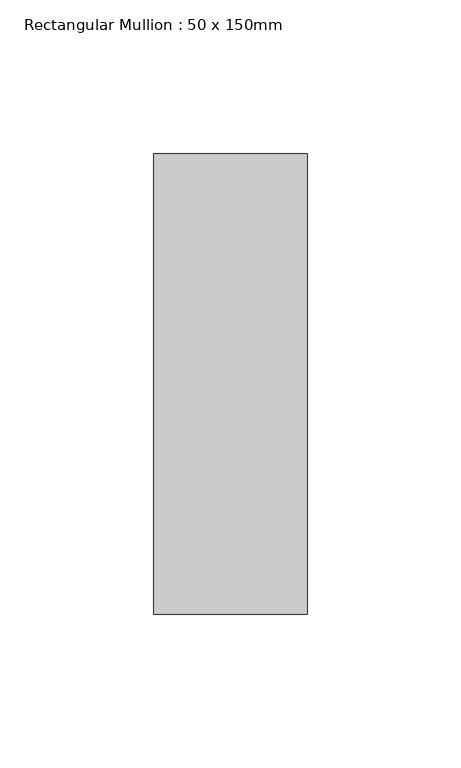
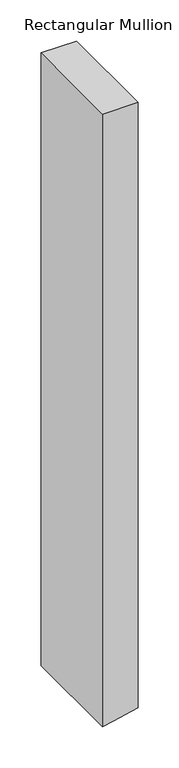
"""IFC4 building model written with IfcOpenShell, lengths in millimetres: member geometry, Rectangular Mullion : 50 x 150mm."""

import ifcopenshell
import ifcopenshell.guid

model = None  # the IFC model being written
_history = None  # IfcOwnerHistory: only IFC2X3 demands one
_inside = {}  # id of a spatial element -> (the spatial element, [elements in it])
_under = {}  # id of a project, library or spatial element -> (it, [spatial elements below it])
_declared = {}  # id of a project -> (the project, [libraries it declares])
_typed = {}  # id of a type object -> (the type object, [elements of that type])
_made_of = {}  # id of a material, layer set ... -> (it, [elements and type objects made of it])


def new_model(schema):
    """Start an empty IFC model of exactly this schema.

    Asked for "IFC4X3", IfcOpenShell would pick the latest addendum, in which some entities
    have other attributes; the version numbers below select the first issue.
    IFC2X3 requires an IfcOwnerHistory on every rooted entity: one is made here for all.
    """
    global model, _history
    if schema == "IFC4X3":
        model = ifcopenshell.file(schema_version=(4, 3, 0, 0))
    else:
        model = ifcopenshell.file(schema=schema)
    _inside.clear()
    _under.clear()
    _declared.clear()
    _typed.clear()
    _made_of.clear()
    _history = None
    if model.schema == "IFC2X3":
        org = make("IfcOrganization", Name="unknown")
        user = make(
            "IfcPersonAndOrganization",
            ThePerson=make("IfcPerson", FamilyName="unknown"),
            TheOrganization=org,
        )
        app = make(
            "IfcApplication",
            ApplicationDeveloper=org,
            Version="unknown",
            ApplicationFullName="unknown",
            ApplicationIdentifier="unknown",
        )
        _history = make(
            "IfcOwnerHistory",
            OwningUser=user,
            OwningApplication=app,
            ChangeAction="ADDED",
            CreationDate=0,
        )
    return model


def make(cls, **values):
    """One entity of the class cls with the attributes given. An attribute that is None is left unset."""
    return model.create_entity(
        cls, **{name: value for name, value in values.items() if value is not None}
    )


def rooted(cls, **values):
    """An entity with a GlobalId (a new one), such as an element, a storey or a relation."""
    return make(cls, GlobalId=ifcopenshell.guid.new(), OwnerHistory=_history, **values)


def si_unit(unit_type, name, prefix=None):
    """IfcSIUnit, for example si_unit("LENGTHUNIT", "METRE", prefix="MILLI")."""
    return make("IfcSIUnit", UnitType=unit_type, Prefix=prefix, Name=name)


def assignment(units):
    """IfcUnitAssignment: the units of a project."""
    return None if units is None else make("IfcUnitAssignment", Units=units)


def point(xyz):
    """IfcCartesianPoint."""
    return None if xyz is None else make("IfcCartesianPoint", Coordinates=xyz)


def direction(xyz):
    """IfcDirection."""
    return None if xyz is None else make("IfcDirection", DirectionRatios=xyz)


def frame(location, z_axis=None, x_axis=None):
    """IfcAxis2Placement3D, a coordinate frame: its origin and axes. An axis left out is left unset."""
    return make(
        "IfcAxis2Placement3D",
        Location=point(location),
        Axis=direction(z_axis),
        RefDirection=direction(x_axis),
    )


def origin():
    """The frame at (0, 0, 0) with its axes left unset."""
    return frame((0.0, 0.0, 0.0))


def place(relative_to, where):
    """IfcLocalPlacement: puts the frame where relative to a parent placement (None: the world)."""
    return make(
        "IfcLocalPlacement", PlacementRelTo=relative_to, RelativePlacement=where
    )


def context(
    kind, dimensions, precision=None, world=None, true_north=None, identifier=None
):
    """IfcGeometricRepresentationContext, for example the 3D "Model" context."""
    return make(
        "IfcGeometricRepresentationContext",
        ContextIdentifier=identifier,
        ContextType=kind,
        CoordinateSpaceDimension=dimensions,
        Precision=precision,
        WorldCoordinateSystem=world,
        TrueNorth=true_north,
    )


def project(units=None, contexts=None):
    """IfcProject with its units and contexts."""
    return rooted(
        "IfcProject",
        Name="project",
        RepresentationContexts=contexts,
        UnitsInContext=assignment(units),
    )


def spatial(cls, under=None, at=None, **own):
    """A site, building, storey or space (cls), placed at a placement, below another one or the project."""
    s = rooted(cls, ObjectPlacement=at, **own)
    if under is not None:
        _under.setdefault(under.id(), (under, []))[1].append(s)
    return s


def polyline(points):
    """IfcPolyline through the points."""
    return make("IfcPolyline", Points=[point(p) for p in points])


def outline(outer, holes=None, kind="AREA"):
    """IfcArbitraryClosedProfileDef: a profile drawn as a closed curve; with holes, ...WithVoids."""
    if holes is None:
        return make("IfcArbitraryClosedProfileDef", ProfileType=kind, OuterCurve=outer)
    return make(
        "IfcArbitraryProfileDefWithVoids",
        ProfileType=kind,
        OuterCurve=outer,
        InnerCurves=holes,
    )


def extrude(swept, where, along, depth):
    """IfcExtrudedAreaSolid: the profile swept, set in the frame where, extruded along a direction by depth."""
    return make(
        "IfcExtrudedAreaSolid",
        SweptArea=swept,
        Position=where,
        ExtrudedDirection=direction(along),
        Depth=depth,
    )


def shape(context_of_items, identifier, shape_type, items):
    """IfcShapeRepresentation: the items that make up one representation, for example the "Body"."""
    return make(
        "IfcShapeRepresentation",
        ContextOfItems=context_of_items,
        RepresentationIdentifier=identifier,
        RepresentationType=shape_type,
        Items=items,
    )


def source(mapping_origin, context_of_items, identifier, shape_type, items):
    """IfcRepresentationMap: a shape defined once, which mapped items show again and again."""
    return make(
        "IfcRepresentationMap",
        MappingOrigin=mapping_origin,
        MappedRepresentation=shape(context_of_items, identifier, shape_type, items),
    )


def transform(
    local_origin,
    x_axis=None,
    y_axis=None,
    z_axis=None,
    scale=None,
    scale2=None,
    scale3=None,
    uniform=True,
):
    """IfcCartesianTransformationOperator3D, or its non-uniform kind. x_axis, y_axis, z_axis: its Axis1, 2, 3."""
    if uniform:
        return make(
            "IfcCartesianTransformationOperator3D",
            Axis1=direction(x_axis),
            Axis2=direction(y_axis),
            LocalOrigin=point(local_origin),
            Scale=scale,
            Axis3=direction(z_axis),
        )
    return make(
        "IfcCartesianTransformationOperator3DnonUniform",
        Axis1=direction(x_axis),
        Axis2=direction(y_axis),
        LocalOrigin=point(local_origin),
        Scale=scale,
        Axis3=direction(z_axis),
        Scale2=scale2,
        Scale3=scale3,
    )


def mapped(mapping_source, mapping_target):
    """IfcMappedItem: shows the shape of a source again, moved by a transform."""
    return make(
        "IfcMappedItem", MappingSource=mapping_source, MappingTarget=mapping_target
    )


def made_of(thing, what):
    """Note that an element or type object is made of a material, layer set ...; save() writes the relation."""
    if what is not None:
        _made_of.setdefault(what.id(), (what, []))[1].append(thing)
    return thing


def element(
    cls,
    number,
    at=None,
    inside=None,
    cuts=None,
    type_object=None,
    material=None,
    context=None,
    identifier="Body",
    shape_type=None,
    held_by="IfcProductDefinitionShape",
    body=None,
    shapes=None,
    **own,
):
    """One element of the class cls, such as IfcWall. Its Tag is "e" and its number.

    at: its placement. inside: the storey or other place that contains it. cuts: it is an
    opening in that element (IfcRelVoidsElement). A single representation is given by context,
    identifier, shape_type and body (its items); several are given by shapes. held_by: the class
    of the entity that holds the representations. save() writes the other relations.
    """
    e = rooted(cls, Tag="e%d" % number, ObjectPlacement=at, **own)
    if body is not None:
        shapes = [shape(context, identifier, shape_type, body)]
    if shapes is not None:
        e.Representation = make(held_by, Representations=shapes)
    if inside is not None:
        _inside.setdefault(inside.id(), (inside, []))[1].append(e)
    if cuts is not None:
        rooted(
            "IfcRelVoidsElement", RelatingBuildingElement=cuts, RelatedOpeningElement=e
        )
    if type_object is not None:
        _typed.setdefault(type_object.id(), (type_object, []))[1].append(e)
    return made_of(e, material)


def aggregate(whole, parts):
    """IfcRelAggregates: a whole, such as a stair, and the parts it consists of."""
    return rooted("IfcRelAggregates", RelatingObject=whole, RelatedObjects=parts)


def save(model, path):
    """Write the relations noted so far, then the file.

    IfcRelAggregates (storeys below a building ...), IfcRelContainedInSpatialStructure (elements
    in a storey), IfcRelDefinesByType, IfcRelAssociatesMaterial and IfcRelDeclares: one each for
    every whole, place, type object, material and project.
    """
    for whole, parts in _under.values():
        aggregate(whole, parts)
    for where, things in _inside.values():
        rooted(
            "IfcRelContainedInSpatialStructure",
            RelatedElements=things,
            RelatingStructure=where,
        )
    for kind, things in _typed.values():
        rooted("IfcRelDefinesByType", RelatedObjects=things, RelatingType=kind)
    for what, things in _made_of.values():
        rooted("IfcRelAssociatesMaterial", RelatedObjects=things, RelatingMaterial=what)
    for by, libraries in _declared.values():
        rooted("IfcRelDeclares", RelatingContext=by, RelatedDefinitions=libraries)
    model.write(path)


def rectangular_mullion_50_x_150mm_3cb7fb0e(model_context):
    return source(origin(), model_context, "Body", "SweptSolid", [
        extrude(outline(polyline([(0.0, 25.0), (0.0, -25.0), (-909.8676287, -25.0), (-906.7574539, -10.4556584), (-899.1755846, 25.0), (0.0, 25.0)])), frame((0.0, -75.0, 0.0), z_axis=(0.0, 1.0, 0.0), x_axis=(0.0, 0.0, 1.0)), (0.0, 0.0, 1.0), 150.0),
    ])


if __name__ == "__main__":
    model = new_model("IFC4")
    model_context = context("Model", 3, world=origin())
    ifc_project = project(units=[si_unit("LENGTHUNIT", "METRE", prefix="MILLI")], contexts=[model_context])
    site = spatial("IfcSite", under=ifc_project)
    building = spatial("IfcBuilding", under=site)
    placement = place(None, origin())
    rectangular_mullion_50_x_150mm_shape = rectangular_mullion_50_x_150mm_3cb7fb0e(model_context)
    element("IfcMember", 1, ObjectType="Rectangular Mullion : 50 x 150mm", at=placement, inside=building, context=model_context, shape_type="MappedRepresentation", body=[
        mapped(rectangular_mullion_50_x_150mm_shape, transform((0.0, 0.0, 0.0), x_axis=(1.0, 0.0, 0.0), y_axis=(0.0, 1.0, 0.0), z_axis=(0.0, 0.0, 1.0))),
    ])
    save(model, "model.ifc")
